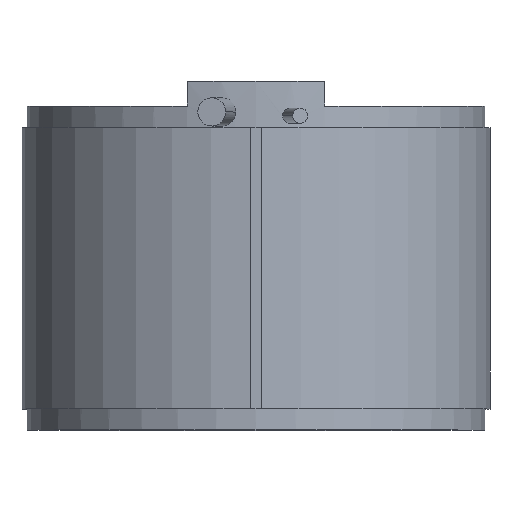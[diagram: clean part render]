
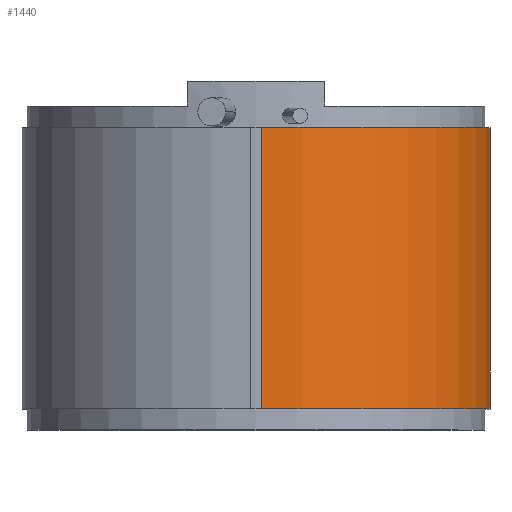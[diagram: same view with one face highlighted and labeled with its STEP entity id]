
A CAD part, top view. The second image highlights one B-rep face of the part: STEP entity #1440.
In plain terms, the highlighted cylindrical face has radius 66.5 mm (diameter 133 mm), a partial arc.
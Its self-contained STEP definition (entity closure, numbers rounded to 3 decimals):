
#47 = EDGE_CURVE ( 'NONE', #789, #1626, #3206, .T. ) ;
#256 = CARTESIAN_POINT ( 'NONE',  ( 61.988, 136.612, 143.101 ) ) ;
#333 = EDGE_LOOP ( 'NONE', ( #2667, #1427, #3666, #393 ) ) ;
#393 = ORIENTED_EDGE ( 'NONE', *, *, #3317, .T. ) ;
#498 = DIRECTION ( 'NONE',  ( 0., 0., -1. ) ) ;
#576 = CARTESIAN_POINT ( 'NONE',  ( 3.65, 104.691, 143.101 ) ) ;
#722 = DIRECTION ( 'NONE',  ( 0., 0., 1. ) ) ;
#789 = VERTEX_POINT ( 'NONE', #3396 ) ;
#810 = CARTESIAN_POINT ( 'NONE',  ( 61.988, 136.612, 387.486 ) ) ;
#1026 = FACE_OUTER_BOUND ( 'NONE', #333, .T. ) ;
#1042 = CARTESIAN_POINT ( 'NONE',  ( 3.65, 104.691, 223.101 ) ) ;
#1116 = VECTOR ( 'NONE', #3471, 1000. ) ;
#1220 = CARTESIAN_POINT ( 'NONE',  ( 5.175, 38.209, 223.101 ) ) ;
#1369 = LINE ( 'NONE', #3773, #2518 ) ;
#1427 = ORIENTED_EDGE ( 'NONE', *, *, #47, .F. ) ;
#1440 = ADVANCED_FACE ( 'NONE', ( #1026 ), #3797, .T. ) ;
#1442 = CIRCLE ( 'NONE', #2134, 66.5 ) ;
#1505 = DIRECTION ( 'NONE',  ( 0., 0., -1. ) ) ;
#1626 = VERTEX_POINT ( 'NONE', #256 ) ;
#1646 = AXIS2_PLACEMENT_3D ( 'NONE', #576, #1505, #2607 ) ;
#1806 = VERTEX_POINT ( 'NONE', #3118 ) ;
#2134 = AXIS2_PLACEMENT_3D ( 'NONE', #2434, #3403, #2139 ) ;
#2139 = DIRECTION ( 'NONE',  ( 1., 0., 0. ) ) ;
#2434 = CARTESIAN_POINT ( 'NONE',  ( 3.65, 104.691, 223.101 ) ) ;
#2518 = VECTOR ( 'NONE', #498, 1000. ) ;
#2607 = DIRECTION ( 'NONE',  ( 1., 0., 0. ) ) ;
#2667 = ORIENTED_EDGE ( 'NONE', *, *, #3025, .F. ) ;
#2733 = EDGE_CURVE ( 'NONE', #789, #3008, #1442, .T. ) ;
#3008 = VERTEX_POINT ( 'NONE', #1220 ) ;
#3025 = EDGE_CURVE ( 'NONE', #1626, #1806, #3718, .T. ) ;
#3118 = CARTESIAN_POINT ( 'NONE',  ( 5.175, 38.209, 143.101 ) ) ;
#3158 = AXIS2_PLACEMENT_3D ( 'NONE', #1042, #722, #3739 ) ;
#3206 = LINE ( 'NONE', #810, #1116 ) ;
#3317 = EDGE_CURVE ( 'NONE', #3008, #1806, #1369, .T. ) ;
#3396 = CARTESIAN_POINT ( 'NONE',  ( 61.988, 136.612, 223.101 ) ) ;
#3403 = DIRECTION ( 'NONE',  ( 0., 0., -1. ) ) ;
#3471 = DIRECTION ( 'NONE',  ( 0., 0., -1. ) ) ;
#3666 = ORIENTED_EDGE ( 'NONE', *, *, #2733, .T. ) ;
#3718 = CIRCLE ( 'NONE', #1646, 66.5 ) ;
#3739 = DIRECTION ( 'NONE',  ( -1., 0., 0. ) ) ;
#3773 = CARTESIAN_POINT ( 'NONE',  ( 5.175, 38.209, 387.498 ) ) ;
#3797 = CYLINDRICAL_SURFACE ( 'NONE', #3158, 66.5 ) ;
